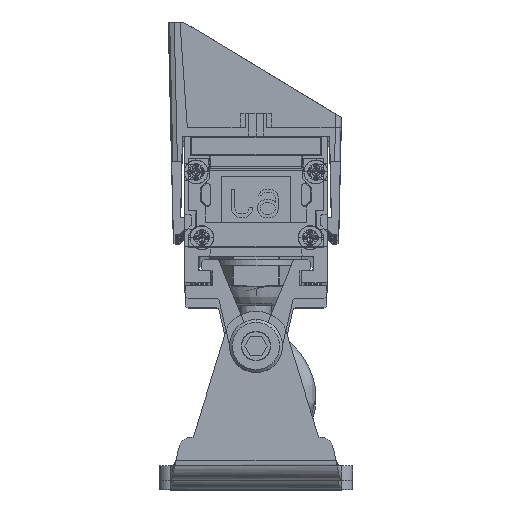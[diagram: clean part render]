
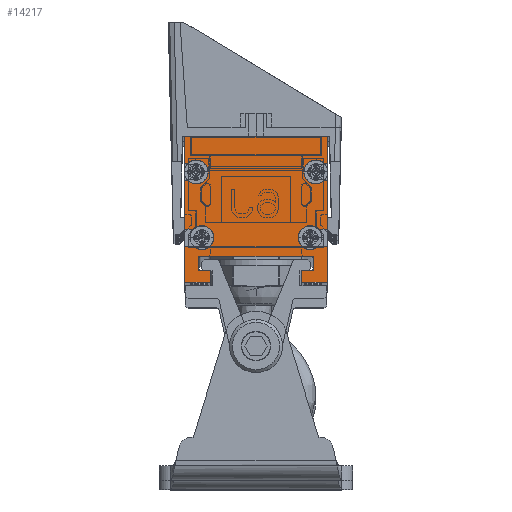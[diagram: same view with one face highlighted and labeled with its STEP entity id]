
A CAD part, top view. The second image highlights one B-rep face of the part: STEP entity #14217.
In plain terms, the highlighted planar face has unit normal (0, 0, 1) as drawn and (0, -1, 0) by its records, which use the part's own axes.
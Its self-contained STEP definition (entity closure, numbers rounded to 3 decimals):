
#8963=DIRECTION('',(-1.,0.,0.));
#8964=VECTOR('',#8963,20.);
#8965=CARTESIAN_POINT('',(10.,-503.5,8.813));
#8966=LINE('',#8965,#8964);
#10677=DIRECTION('',(1.,0.,0.));
#10678=VECTOR('',#10677,1.53);
#10679=CARTESIAN_POINT('',(-12.5,-503.5,7.013));
#10680=LINE('',#10679,#10678);
#10681=DIRECTION('',(0.,0.,1.));
#10682=VECTOR('',#10681,6.3);
#10683=CARTESIAN_POINT('',(-12.5,-503.5,7.013));
#10684=LINE('',#10683,#10682);
#10685=DIRECTION('',(0.,0.,-1.));
#10686=VECTOR('',#10685,6.3);
#10687=CARTESIAN_POINT('',(12.5,-503.5,13.313));
#10688=LINE('',#10687,#10686);
#10689=DIRECTION('',(-1.,0.,0.));
#10690=VECTOR('',#10689,1.53);
#10691=CARTESIAN_POINT('',(12.5,-503.5,7.013));
#10692=LINE('',#10691,#10690);
#10693=CARTESIAN_POINT('',(9.5,-503.5,5.513));
#10694=DIRECTION('',(0.,-1.,0.));
#10695=DIRECTION('',(0.7,0.,0.714));
#10696=AXIS2_PLACEMENT_3D('',#10693,#10694,#10695);
#10698=DIRECTION('',(-1.,0.,0.));
#10699=VECTOR('',#10698,1.53);
#10700=CARTESIAN_POINT('',(12.5,-503.5,4.013));
#10701=LINE('',#10700,#10699);
#10702=DIRECTION('',(0.,0.,-1.));
#10703=VECTOR('',#10702,8.513);
#10704=CARTESIAN_POINT('',(12.5,-503.5,4.013));
#10705=LINE('',#10704,#10703);
#10706=DIRECTION('',(-1.,0.,0.));
#10707=VECTOR('',#10706,0.53);
#10708=CARTESIAN_POINT('',(12.5,-503.5,-4.5));
#10709=LINE('',#10708,#10707);
#10710=CARTESIAN_POINT('',(10.5,-503.5,-6.));
#10711=DIRECTION('',(0.,-1.,0.));
#10712=DIRECTION('',(0.7,0.,0.714));
#10713=AXIS2_PLACEMENT_3D('',#10710,#10711,#10712);
#10715=DIRECTION('',(-1.,0.,0.));
#10716=VECTOR('',#10715,0.53);
#10717=CARTESIAN_POINT('',(12.5,-503.5,-7.5));
#10718=LINE('',#10717,#10716);
#10719=DIRECTION('',(0.,0.,-1.));
#10720=VECTOR('',#10719,4.787);
#10721=CARTESIAN_POINT('',(12.5,-503.5,-7.5));
#10722=LINE('',#10721,#10720);
#10723=DIRECTION('',(0.,0.,1.));
#10724=VECTOR('',#10723,4.787);
#10725=CARTESIAN_POINT('',(-12.5,-503.5,-12.287));
#10726=LINE('',#10725,#10724);
#10727=DIRECTION('',(1.,0.,0.));
#10728=VECTOR('',#10727,0.53);
#10729=CARTESIAN_POINT('',(-12.5,-503.5,-7.5));
#10730=LINE('',#10729,#10728);
#10731=CARTESIAN_POINT('',(-10.5,-503.5,-6.));
#10732=DIRECTION('',(0.,-1.,0.));
#10733=DIRECTION('',(-0.7,0.,-0.714));
#10734=AXIS2_PLACEMENT_3D('',#10731,#10732,#10733);
#10736=DIRECTION('',(1.,0.,0.));
#10737=VECTOR('',#10736,0.53);
#10738=CARTESIAN_POINT('',(-12.5,-503.5,-4.5));
#10739=LINE('',#10738,#10737);
#10740=DIRECTION('',(0.,0.,1.));
#10741=VECTOR('',#10740,8.513);
#10742=CARTESIAN_POINT('',(-12.5,-503.5,-4.5));
#10743=LINE('',#10742,#10741);
#10744=DIRECTION('',(1.,0.,0.));
#10745=VECTOR('',#10744,1.53);
#10746=CARTESIAN_POINT('',(-12.5,-503.5,4.013));
#10747=LINE('',#10746,#10745);
#10748=CARTESIAN_POINT('',(-9.5,-503.5,5.513));
#10749=DIRECTION('',(0.,-1.,0.));
#10750=DIRECTION('',(-0.7,0.,-0.714));
#10751=AXIS2_PLACEMENT_3D('',#10748,#10749,#10750);
#10861=DIRECTION('',(1.,0.,0.));
#10862=VECTOR('',#10861,25.);
#10863=CARTESIAN_POINT('',(-12.5,-503.5,-12.287));
#10864=LINE('',#10863,#10862);
#11051=DIRECTION('',(-1.,0.,0.));
#11052=VECTOR('',#11051,4.5);
#11053=CARTESIAN_POINT('',(-8.,-503.5,13.313));
#11054=LINE('',#11053,#11052);
#11059=DIRECTION('',(0.,0.,1.));
#11060=VECTOR('',#11059,2.);
#11061=CARTESIAN_POINT('',(-8.,-503.5,11.313));
#11062=LINE('',#11061,#11060);
#11067=DIRECTION('',(1.,0.,0.));
#11068=VECTOR('',#11067,2.);
#11069=CARTESIAN_POINT('',(-10.,-503.5,11.313));
#11070=LINE('',#11069,#11068);
#11075=DIRECTION('',(0.,0.,1.));
#11076=VECTOR('',#11075,2.5);
#11077=CARTESIAN_POINT('',(-10.,-503.5,8.813));
#11078=LINE('',#11077,#11076);
#11101=DIRECTION('',(0.,0.,-1.));
#11102=VECTOR('',#11101,2.5);
#11103=CARTESIAN_POINT('',(10.,-503.5,11.313));
#11104=LINE('',#11103,#11102);
#11105=DIRECTION('',(1.,0.,0.));
#11106=VECTOR('',#11105,2.);
#11107=CARTESIAN_POINT('',(8.,-503.5,11.313));
#11108=LINE('',#11107,#11106);
#11113=DIRECTION('',(0.,0.,-1.));
#11114=VECTOR('',#11113,2.);
#11115=CARTESIAN_POINT('',(8.,-503.5,13.313));
#11116=LINE('',#11115,#11114);
#11121=DIRECTION('',(-1.,0.,0.));
#11122=VECTOR('',#11121,4.5);
#11123=CARTESIAN_POINT('',(12.5,-503.5,13.313));
#11124=LINE('',#11123,#11122);
#11157=CARTESIAN_POINT('',(-10.,-503.5,8.813));
#11158=VERTEX_POINT('',#11157);
#11159=CARTESIAN_POINT('',(10.,-503.5,8.813));
#11160=VERTEX_POINT('',#11159);
#11161=CARTESIAN_POINT('',(-10.,-503.5,11.313));
#11162=VERTEX_POINT('',#11161);
#11163=CARTESIAN_POINT('',(-8.,-503.5,11.313));
#11164=CARTESIAN_POINT('',(-8.,-503.5,13.313));
#11165=VERTEX_POINT('',#11163);
#11166=VERTEX_POINT('',#11164);
#11167=CARTESIAN_POINT('',(10.,-503.5,11.313));
#11168=VERTEX_POINT('',#11167);
#11169=CARTESIAN_POINT('',(8.,-503.5,11.313));
#11170=VERTEX_POINT('',#11169);
#11171=CARTESIAN_POINT('',(8.,-503.5,13.313));
#11172=VERTEX_POINT('',#11171);
#11173=CARTESIAN_POINT('',(-12.5,-503.5,-12.287));
#11174=CARTESIAN_POINT('',(12.5,-503.5,-12.287));
#11175=VERTEX_POINT('',#11173);
#11176=VERTEX_POINT('',#11174);
#11177=CARTESIAN_POINT('',(12.5,-503.5,13.313));
#11178=VERTEX_POINT('',#11177);
#11179=CARTESIAN_POINT('',(-12.5,-503.5,13.313));
#11180=VERTEX_POINT('',#11179);
#11209=CARTESIAN_POINT('',(-12.5,-503.5,7.013));
#11210=CARTESIAN_POINT('',(-10.97,-503.5,7.013));
#11211=VERTEX_POINT('',#11209);
#11212=VERTEX_POINT('',#11210);
#11213=CARTESIAN_POINT('',(-12.5,-503.5,4.013));
#11214=CARTESIAN_POINT('',(-10.97,-503.5,4.013));
#11215=VERTEX_POINT('',#11213);
#11216=VERTEX_POINT('',#11214);
#11217=CARTESIAN_POINT('',(-12.5,-503.5,-4.5));
#11218=CARTESIAN_POINT('',(-11.97,-503.5,-4.5));
#11219=VERTEX_POINT('',#11217);
#11220=VERTEX_POINT('',#11218);
#11221=CARTESIAN_POINT('',(-12.5,-503.5,-7.5));
#11222=CARTESIAN_POINT('',(-11.97,-503.5,-7.5));
#11223=VERTEX_POINT('',#11221);
#11224=VERTEX_POINT('',#11222);
#11225=CARTESIAN_POINT('',(10.97,-503.5,7.013));
#11226=CARTESIAN_POINT('',(10.97,-503.5,4.013));
#11227=VERTEX_POINT('',#11225);
#11228=VERTEX_POINT('',#11226);
#11229=CARTESIAN_POINT('',(12.5,-503.5,4.013));
#11230=VERTEX_POINT('',#11229);
#11231=CARTESIAN_POINT('',(12.5,-503.5,7.013));
#11232=VERTEX_POINT('',#11231);
#11233=CARTESIAN_POINT('',(11.97,-503.5,-4.5));
#11234=CARTESIAN_POINT('',(11.97,-503.5,-7.5));
#11235=VERTEX_POINT('',#11233);
#11236=VERTEX_POINT('',#11234);
#11237=CARTESIAN_POINT('',(12.5,-503.5,-7.5));
#11238=VERTEX_POINT('',#11237);
#11239=CARTESIAN_POINT('',(12.5,-503.5,-4.5));
#11240=VERTEX_POINT('',#11239);
#14162=CARTESIAN_POINT('',(0.,-503.5,0.323));
#14163=DIRECTION('',(0.,-1.,0.));
#14164=DIRECTION('',(1.,0.,0.));
#14165=AXIS2_PLACEMENT_3D('',#14162,#14163,#14164);
#14166=PLANE('',#14165);
#14168=ORIENTED_EDGE('',*,*,#14167,.F.);
#14170=ORIENTED_EDGE('',*,*,#14169,.T.);
#14172=ORIENTED_EDGE('',*,*,#14171,.F.);
#14174=ORIENTED_EDGE('',*,*,#14173,.F.);
#14176=ORIENTED_EDGE('',*,*,#14175,.F.);
#14178=ORIENTED_EDGE('',*,*,#14177,.F.);
#14179=ORIENTED_EDGE('',*,*,#11824,.F.);
#14181=ORIENTED_EDGE('',*,*,#14180,.F.);
#14183=ORIENTED_EDGE('',*,*,#14182,.F.);
#14185=ORIENTED_EDGE('',*,*,#14184,.F.);
#14187=ORIENTED_EDGE('',*,*,#14186,.F.);
#14188=ORIENTED_EDGE('',*,*,#14056,.T.);
#14190=ORIENTED_EDGE('',*,*,#14189,.T.);
#14191=ORIENTED_EDGE('',*,*,#14018,.T.);
#14192=ORIENTED_EDGE('',*,*,#14034,.F.);
#14193=ORIENTED_EDGE('',*,*,#14050,.T.);
#14195=ORIENTED_EDGE('',*,*,#14194,.T.);
#14196=ORIENTED_EDGE('',*,*,#14141,.T.);
#14197=ORIENTED_EDGE('',*,*,#14156,.F.);
#14198=ORIENTED_EDGE('',*,*,#14063,.T.);
#14200=ORIENTED_EDGE('',*,*,#14199,.F.);
#14202=ORIENTED_EDGE('',*,*,#14201,.T.);
#14204=ORIENTED_EDGE('',*,*,#14203,.T.);
#14206=ORIENTED_EDGE('',*,*,#14205,.T.);
#14208=ORIENTED_EDGE('',*,*,#14207,.F.);
#14210=ORIENTED_EDGE('',*,*,#14209,.T.);
#14212=ORIENTED_EDGE('',*,*,#14211,.T.);
#14214=ORIENTED_EDGE('',*,*,#14213,.T.);
#14215=EDGE_LOOP('',(#14168,#14170,#14172,#14174,#14176,#14178,#14179,#14181,
#14183,#14185,#14187,#14188,#14190,#14191,#14192,#14193,#14195,#14196,#14197,
#14198,#14200,#14202,#14204,#14206,#14208,#14210,#14212,#14214));
#14216=FACE_OUTER_BOUND('',#14215,.F.);
#14217=ADVANCED_FACE('',(#14216),#14166,.T.);
#10697=CIRCLE('',#10696,2.1);
#10714=CIRCLE('',#10713,2.1);
#10735=CIRCLE('',#10734,2.1);
#10752=CIRCLE('',#10751,2.1);
#11824=EDGE_CURVE('',#11160,#11158,#8966,.T.);
#14018=EDGE_CURVE('',#11227,#11228,#10697,.T.);
#14034=EDGE_CURVE('',#11230,#11228,#10701,.T.);
#14050=EDGE_CURVE('',#11230,#11240,#10705,.T.);
#14056=EDGE_CURVE('',#11178,#11232,#10688,.T.);
#14063=EDGE_CURVE('',#11238,#11176,#10722,.T.);
#14141=EDGE_CURVE('',#11235,#11236,#10714,.T.);
#14156=EDGE_CURVE('',#11238,#11236,#10718,.T.);
#14167=EDGE_CURVE('',#11211,#11212,#10680,.T.);
#14169=EDGE_CURVE('',#11211,#11180,#10684,.T.);
#14171=EDGE_CURVE('',#11166,#11180,#11054,.T.);
#14173=EDGE_CURVE('',#11165,#11166,#11062,.T.);
#14175=EDGE_CURVE('',#11162,#11165,#11070,.T.);
#14177=EDGE_CURVE('',#11158,#11162,#11078,.T.);
#14180=EDGE_CURVE('',#11168,#11160,#11104,.T.);
#14182=EDGE_CURVE('',#11170,#11168,#11108,.T.);
#14184=EDGE_CURVE('',#11172,#11170,#11116,.T.);
#14186=EDGE_CURVE('',#11178,#11172,#11124,.T.);
#14189=EDGE_CURVE('',#11232,#11227,#10692,.T.);
#14194=EDGE_CURVE('',#11240,#11235,#10709,.T.);
#14199=EDGE_CURVE('',#11175,#11176,#10864,.T.);
#14201=EDGE_CURVE('',#11175,#11223,#10726,.T.);
#14203=EDGE_CURVE('',#11223,#11224,#10730,.T.);
#14205=EDGE_CURVE('',#11224,#11220,#10735,.T.);
#14207=EDGE_CURVE('',#11219,#11220,#10739,.T.);
#14209=EDGE_CURVE('',#11219,#11215,#10743,.T.);
#14211=EDGE_CURVE('',#11215,#11216,#10747,.T.);
#14213=EDGE_CURVE('',#11216,#11212,#10752,.T.);
